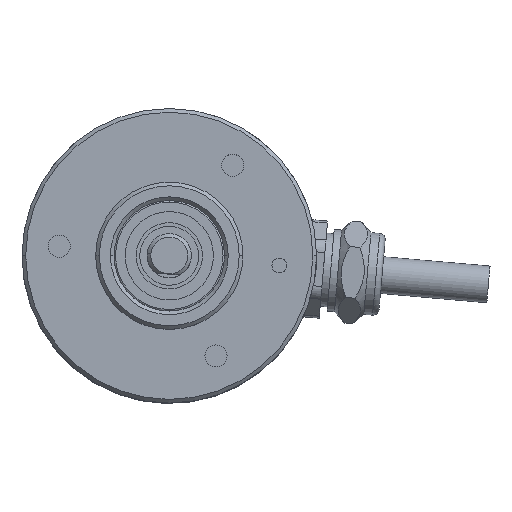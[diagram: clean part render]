
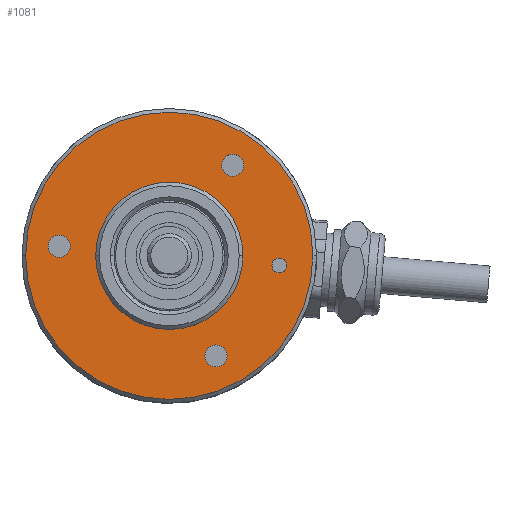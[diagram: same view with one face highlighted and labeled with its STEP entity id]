
A CAD part, top view. The second image highlights one B-rep face of the part: STEP entity #1081.
In plain terms, the highlighted planar face has unit normal (0, 0, 1).
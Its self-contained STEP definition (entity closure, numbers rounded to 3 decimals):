
#1081=ADVANCED_FACE('',(#1300,#1301,#1302,#1303,#1304,#1305),#1189,.T.);
#1189=PLANE('',#5907);
#1300=FACE_BOUND('',#1592,.T.);
#1301=FACE_BOUND('',#1593,.T.);
#1302=FACE_BOUND('',#1594,.T.);
#1303=FACE_BOUND('',#1595,.T.);
#1304=FACE_BOUND('',#1596,.T.);
#1305=FACE_BOUND('',#1597,.T.);
#1592=EDGE_LOOP('',(#3424,#3425));
#1593=EDGE_LOOP('',(#3426,#3427));
#1594=EDGE_LOOP('',(#3428,#3429));
#1595=EDGE_LOOP('',(#3430,#3431));
#1596=EDGE_LOOP('',(#3432,#3433));
#1597=EDGE_LOOP('',(#3434,#3435));
#1996=CIRCLE('',#5893,10.);
#1997=CIRCLE('',#5895,10.);
#1998=CIRCLE('',#5897,19.5);
#1999=CIRCLE('',#5898,19.5);
#2000=CIRCLE('',#5899,1.5);
#2001=CIRCLE('',#5900,1.5);
#2002=CIRCLE('',#5901,1.5);
#2003=CIRCLE('',#5902,1.5);
#2004=CIRCLE('',#5903,1.5);
#2005=CIRCLE('',#5904,1.5);
#2006=CIRCLE('',#5905,1.);
#2007=CIRCLE('',#5906,1.);
#3424=ORIENTED_EDGE('',*,*,#4881,.T.);
#3425=ORIENTED_EDGE('',*,*,#4882,.T.);
#3426=ORIENTED_EDGE('',*,*,#4883,.F.);
#3427=ORIENTED_EDGE('',*,*,#4884,.F.);
#3428=ORIENTED_EDGE('',*,*,#4885,.F.);
#3429=ORIENTED_EDGE('',*,*,#4886,.F.);
#3430=ORIENTED_EDGE('',*,*,#4887,.F.);
#3431=ORIENTED_EDGE('',*,*,#4888,.F.);
#3432=ORIENTED_EDGE('',*,*,#4889,.F.);
#3433=ORIENTED_EDGE('',*,*,#4890,.F.);
#3434=ORIENTED_EDGE('',*,*,#4878,.F.);
#3435=ORIENTED_EDGE('',*,*,#4880,.F.);
#4124=VERTEX_POINT('',#10488);
#4125=VERTEX_POINT('',#10490);
#4126=VERTEX_POINT('',#10496);
#4127=VERTEX_POINT('',#10497);
#4128=VERTEX_POINT('',#10500);
#4129=VERTEX_POINT('',#10501);
#4130=VERTEX_POINT('',#10504);
#4131=VERTEX_POINT('',#10505);
#4132=VERTEX_POINT('',#10508);
#4133=VERTEX_POINT('',#10509);
#4134=VERTEX_POINT('',#10512);
#4135=VERTEX_POINT('',#10513);
#4878=EDGE_CURVE('',#4124,#4125,#1996,.T.);
#4880=EDGE_CURVE('',#4125,#4124,#1997,.T.);
#4881=EDGE_CURVE('',#4126,#4127,#1998,.T.);
#4882=EDGE_CURVE('',#4127,#4126,#1999,.T.);
#4883=EDGE_CURVE('',#4128,#4129,#2000,.T.);
#4884=EDGE_CURVE('',#4129,#4128,#2001,.T.);
#4885=EDGE_CURVE('',#4130,#4131,#2002,.T.);
#4886=EDGE_CURVE('',#4131,#4130,#2003,.T.);
#4887=EDGE_CURVE('',#4132,#4133,#2004,.T.);
#4888=EDGE_CURVE('',#4133,#4132,#2005,.T.);
#4889=EDGE_CURVE('',#4134,#4135,#2006,.T.);
#4890=EDGE_CURVE('',#4135,#4134,#2007,.T.);
#5893=AXIS2_PLACEMENT_3D('',#10489,#7246,#7247);
#5895=AXIS2_PLACEMENT_3D('',#10493,#7251,#7252);
#5897=AXIS2_PLACEMENT_3D('',#10495,#7255,#7256);
#5898=AXIS2_PLACEMENT_3D('',#10498,#7257,#7258);
#5899=AXIS2_PLACEMENT_3D('',#10499,#7259,#7260);
#5900=AXIS2_PLACEMENT_3D('',#10502,#7261,#7262);
#5901=AXIS2_PLACEMENT_3D('',#10503,#7263,#7264);
#5902=AXIS2_PLACEMENT_3D('',#10506,#7265,#7266);
#5903=AXIS2_PLACEMENT_3D('',#10507,#7267,#7268);
#5904=AXIS2_PLACEMENT_3D('',#10510,#7269,#7270);
#5905=AXIS2_PLACEMENT_3D('',#10511,#7271,#7272);
#5906=AXIS2_PLACEMENT_3D('',#10514,#7273,#7274);
#5907=AXIS2_PLACEMENT_3D('',#10515,#7275,#7276);
#7246=DIRECTION('',(0.,0.,1.));
#7247=DIRECTION('',(-1.,0.,0.));
#7251=DIRECTION('',(0.,0.,1.));
#7252=DIRECTION('',(1.,0.,0.));
#7255=DIRECTION('',(0.,0.,1.));
#7256=DIRECTION('',(-1.,0.,0.));
#7257=DIRECTION('',(0.,0.,1.));
#7258=DIRECTION('',(1.,0.,0.));
#7259=DIRECTION('',(0.,0.,1.));
#7260=DIRECTION('',(0.,1.,0.));
#7261=DIRECTION('',(0.,0.,1.));
#7262=DIRECTION('',(0.,-1.,0.));
#7263=DIRECTION('',(0.,0.,1.));
#7264=DIRECTION('',(-0.866,-0.5,0.));
#7265=DIRECTION('',(0.,0.,1.));
#7266=DIRECTION('',(0.866,0.5,0.));
#7267=DIRECTION('',(0.,0.,1.));
#7268=DIRECTION('',(0.866,-0.5,0.));
#7269=DIRECTION('',(0.,0.,1.));
#7270=DIRECTION('',(-0.866,0.5,0.));
#7271=DIRECTION('',(0.,0.,1.));
#7272=DIRECTION('',(0.,-1.,0.));
#7273=DIRECTION('',(0.,0.,1.));
#7274=DIRECTION('',(0.,1.,0.));
#7275=DIRECTION('',(0.,0.,1.));
#7276=DIRECTION('',(-1.,0.,0.));
#10488=CARTESIAN_POINT('',(10.,20.,-11.5));
#10489=CARTESIAN_POINT('',(20.,20.,-11.5));
#10490=CARTESIAN_POINT('',(30.,20.,-11.5));
#10493=CARTESIAN_POINT('',(20.,20.,-11.5));
#10495=CARTESIAN_POINT('',(20.,20.,-11.5));
#10496=CARTESIAN_POINT('',(0.5,20.,-11.5));
#10497=CARTESIAN_POINT('',(39.5,20.,-11.5));
#10498=CARTESIAN_POINT('',(20.,20.,-11.5));
#10499=CARTESIAN_POINT('',(28.604,32.287,-11.5));
#10500=CARTESIAN_POINT('',(28.604,33.787,-11.5));
#10501=CARTESIAN_POINT('',(28.604,30.787,-11.5));
#10502=CARTESIAN_POINT('',(28.604,32.287,-11.5));
#10503=CARTESIAN_POINT('',(5.057,21.307,-11.5));
#10504=CARTESIAN_POINT('',(3.758,20.557,-11.5));
#10505=CARTESIAN_POINT('',(6.356,22.057,-11.5));
#10506=CARTESIAN_POINT('',(5.057,21.307,-11.5));
#10507=CARTESIAN_POINT('',(26.339,6.405,-11.5));
#10508=CARTESIAN_POINT('',(27.638,5.655,-11.5));
#10509=CARTESIAN_POINT('',(25.04,7.155,-11.5));
#10510=CARTESIAN_POINT('',(26.339,6.405,-11.5));
#10511=CARTESIAN_POINT('',(34.943,18.693,-11.5));
#10512=CARTESIAN_POINT('',(34.943,17.693,-11.5));
#10513=CARTESIAN_POINT('',(34.943,19.693,-11.5));
#10514=CARTESIAN_POINT('',(34.943,18.693,-11.5));
#10515=CARTESIAN_POINT('',(20.,20.,-11.5));
